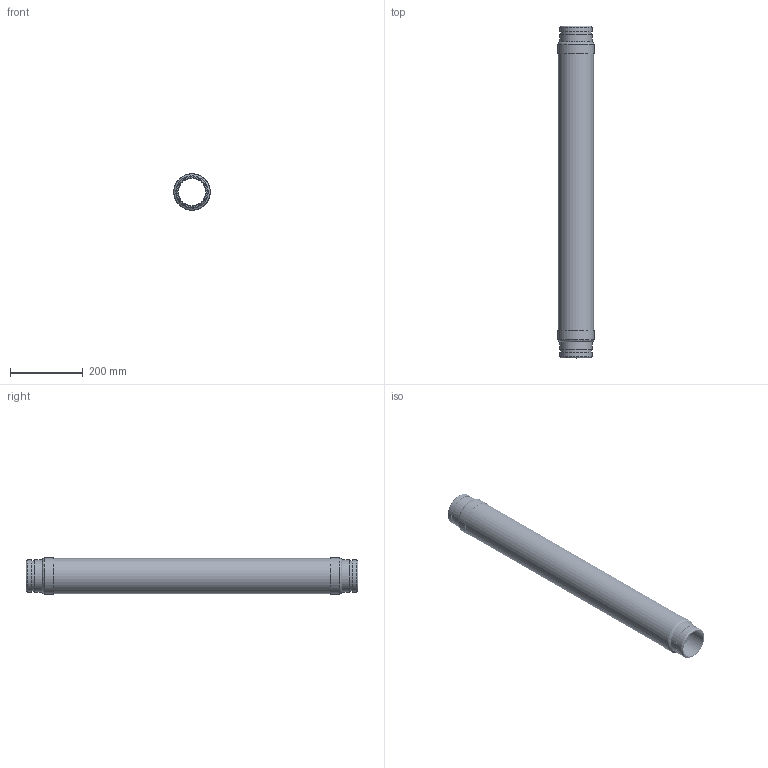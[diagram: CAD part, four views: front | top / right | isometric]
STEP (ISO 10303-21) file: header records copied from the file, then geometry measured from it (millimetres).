
FILE_DESCRIPTION((''),'2;1');
FILE_NAME('C:\2012_Work\Designs\GWN\GWN-3x36.stp','2013-08-13T12:37:08',('KShiels'),(''),'Autodesk Inventor 2012','Autodesk Inventor 2012','');
FILE_SCHEMA(('AUTOMOTIVE_DESIGN { 1 0 10303 214 1 1 1 1 }'));
Length unit declared in the file: inch
Products named in the file (6): GWN-3x36; GWN-3x36_Welds; A-30111-4_3in_GN-BRAID; A-30111-4_3in_GN-BELLOWS; A-30111-4_3in_GN-BRAID-COLLAR; A-30111-4_3in_GN-GROOVED_NIPPLE
Assembly tree (7 placements, depth 2):
  GWN-3x36
    GWN-3x36_Welds
    A-30111-4_3in_GN-BRAID
    A-30111-4_3in_GN-BELLOWS
    A-30111-4_3in_GN-BRAID-COLLAR  x2
    A-30111-4_3in_GN-GROOVED_NIPPLE  x2
Bounding box: 100.22 x 914.4 x 100.22 mm (x, y, z)
Volume: 595943.8 mm3; surface area: 2199144.9 mm2
Topology: 8 solids, 8 shells, 1024 faces, 1548 edges, 1034 vertices
Faces by surface type: plane 510, torus 494, cylinder 16, bspline 2, cone 2
Full cylindrical faces by diameter (mm): 77.927 x2, 84.938 x2, 88.9 x6, 97.028 x1, 97.841 x3, 100.222 x2
Entity records: 21051 total; most frequent: DIRECTION 4058, CARTESIAN_POINT 3636, ORIENTED_EDGE 2034, AXIS2_PLACEMENT_3D 2029, EDGE_LOOP 2020, EDGE_CURVE 1017, VERTEX_POINT 1015, FACE_OUTER_BOUND 1011
